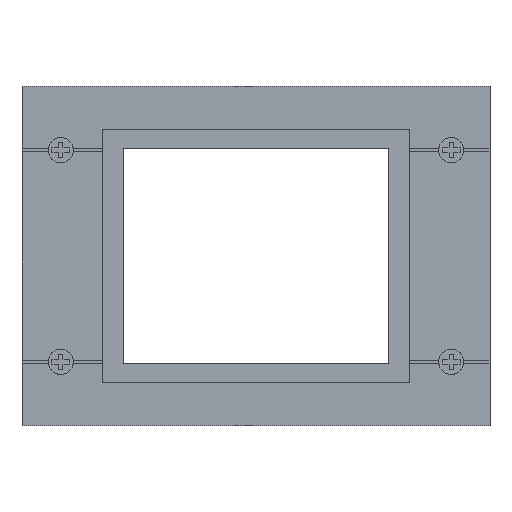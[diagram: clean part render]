
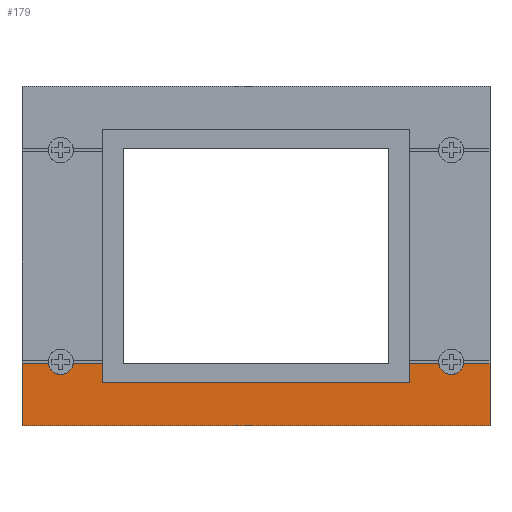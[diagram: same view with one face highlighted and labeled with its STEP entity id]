
A CAD part, top view. The second image highlights one B-rep face of the part: STEP entity #179.
In plain terms, the highlighted planar face has unit normal (0, 0, 1).
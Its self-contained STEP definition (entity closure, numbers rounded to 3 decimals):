
#179=ADVANCED_FACE('',(#2261),#2263,.T.);
#2261=FACE_BOUND('',#2262,.T.);
#2262=EDGE_LOOP('',(#3955,#3956,#3957,#3958,#3959,#3960,#3961,#3962,#3963,#3964,
#3965,#3966));
#2263=PLANE('',#2264);
#2264=AXIS2_PLACEMENT_3D('',#2265,#2266,#2267);
#2265=CARTESIAN_POINT('',(78.5,57.,6.5));
#2266=DIRECTION('',(0.,0.,1.));
#2267=DIRECTION('',(0.,1.,0.));
#3955=ORIENTED_EDGE('',*,*,#5155,.F.);
#3956=ORIENTED_EDGE('',*,*,#5156,.F.);
#3957=ORIENTED_EDGE('',*,*,#5157,.T.);
#3958=ORIENTED_EDGE('',*,*,#5158,.T.);
#3959=ORIENTED_EDGE('',*,*,#5123,.T.);
#3960=ORIENTED_EDGE('',*,*,#5121,.T.);
#3961=ORIENTED_EDGE('',*,*,#5115,.F.);
#3962=ORIENTED_EDGE('',*,*,#5154,.T.);
#3963=ORIENTED_EDGE('',*,*,#5152,.F.);
#3964=ORIENTED_EDGE('',*,*,#5159,.F.);
#3965=ORIENTED_EDGE('',*,*,#5160,.F.);
#3966=ORIENTED_EDGE('',*,*,#5161,.F.);
#5115=EDGE_CURVE('',#5745,#5747,#5748,.T.);
#5121=EDGE_CURVE('',#5757,#5747,#5758,.T.);
#5123=EDGE_CURVE('',#5760,#5757,#5761,.T.);
#5152=EDGE_CURVE('',#5809,#5811,#5812,.T.);
#5154=EDGE_CURVE('',#5745,#5811,#5814,.T.);
#5155=EDGE_CURVE('',#5815,#5816,#5817,.T.);
#5156=EDGE_CURVE('',#5818,#5815,#5819,.T.);
#5157=EDGE_CURVE('',#5818,#5820,#5821,.T.);
#5158=EDGE_CURVE('',#5820,#5760,#5822,.T.);
#5159=EDGE_CURVE('',#5823,#5809,#5824,.T.);
#5160=EDGE_CURVE('',#5825,#5823,#5826,.T.);
#5161=EDGE_CURVE('',#5816,#5825,#5827,.T.);
#5745=VERTEX_POINT('',#6816);
#5747=VERTEX_POINT('',#6820);
#5748=CIRCLE('',#6821,4.25);
#5757=VERTEX_POINT('',#6844);
#5758=LINE('',#6845,#6846);
#5760=VERTEX_POINT('',#6851);
#5761=LINE('',#6852,#6853);
#5809=VERTEX_POINT('',#6961);
#5811=VERTEX_POINT('',#6965);
#5812=LINE('',#6966,#6967);
#5814=LINE('',#6972,#6973);
#5815=VERTEX_POINT('',#6975);
#5816=VERTEX_POINT('',#6976);
#5817=CIRCLE('',#6977,4.25);
#5818=VERTEX_POINT('',#6981);
#5819=LINE('',#6982,#6983);
#5820=VERTEX_POINT('',#6985);
#5821=LINE('',#6986,#6987);
#5822=LINE('',#6989,#6990);
#5823=VERTEX_POINT('',#6992);
#5824=LINE('',#6993,#6994);
#5825=VERTEX_POINT('',#6996);
#5826=LINE('',#6997,#6998);
#5827=LINE('',#7000,#7001);
#6816=CARTESIAN_POINT('',(8.78,21.,6.5));
#6820=CARTESIAN_POINT('',(17.22,21.,6.5));
#6821=AXIS2_PLACEMENT_3D('',#6822,#6823,#6824);
#6822=CARTESIAN_POINT('',(13.,21.5,6.5));
#6823=DIRECTION('',(0.,0.,1.));
#6824=DIRECTION('',(-0.993,-0.118,0.));
#6844=CARTESIAN_POINT('',(27.,21.,6.5));
#6845=CARTESIAN_POINT('',(27.,21.,6.5));
#6846=VECTOR('',#6847,1.);
#6847=DIRECTION('',(-1.,0.,0.));
#6851=CARTESIAN_POINT('',(27.,14.5,6.5));
#6852=CARTESIAN_POINT('',(27.,14.5,6.5));
#6853=VECTOR('',#6854,1.);
#6854=DIRECTION('',(0.,1.,0.));
#6961=CARTESIAN_POINT('',(0.,0.,6.5));
#6965=CARTESIAN_POINT('',(0.,21.,6.5));
#6966=CARTESIAN_POINT('',(0.,0.,6.5));
#6967=VECTOR('',#6968,1.);
#6968=DIRECTION('',(0.,1.,0.));
#6972=CARTESIAN_POINT('',(8.78,21.,6.5));
#6973=VECTOR('',#6974,1.);
#6974=DIRECTION('',(-1.,0.,0.));
#6975=CARTESIAN_POINT('',(139.78,21.,6.5));
#6976=CARTESIAN_POINT('',(148.22,21.,6.5));
#6977=AXIS2_PLACEMENT_3D('',#6978,#6979,#6980);
#6978=CARTESIAN_POINT('',(144.,21.5,6.5));
#6979=DIRECTION('',(0.,0.,1.));
#6980=DIRECTION('',(-0.993,-0.118,0.));
#6981=CARTESIAN_POINT('',(130.,21.,6.5));
#6982=CARTESIAN_POINT('',(130.,21.,6.5));
#6983=VECTOR('',#6984,1.);
#6984=DIRECTION('',(1.,0.,0.));
#6985=CARTESIAN_POINT('',(130.,14.5,6.5));
#6986=CARTESIAN_POINT('',(130.,21.,6.5));
#6987=VECTOR('',#6988,1.);
#6988=DIRECTION('',(0.,-1.,0.));
#6989=CARTESIAN_POINT('',(130.,14.5,6.5));
#6990=VECTOR('',#6991,1.);
#6991=DIRECTION('',(-1.,0.,0.));
#6992=CARTESIAN_POINT('',(157.,0.,6.5));
#6993=CARTESIAN_POINT('',(157.,0.,6.5));
#6994=VECTOR('',#6995,1.);
#6995=DIRECTION('',(-1.,0.,0.));
#6996=CARTESIAN_POINT('',(157.,21.,6.5));
#6997=CARTESIAN_POINT('',(157.,21.,6.5));
#6998=VECTOR('',#6999,1.);
#6999=DIRECTION('',(0.,-1.,0.));
#7000=CARTESIAN_POINT('',(148.22,21.,6.5));
#7001=VECTOR('',#7002,1.);
#7002=DIRECTION('',(1.,0.,0.));
